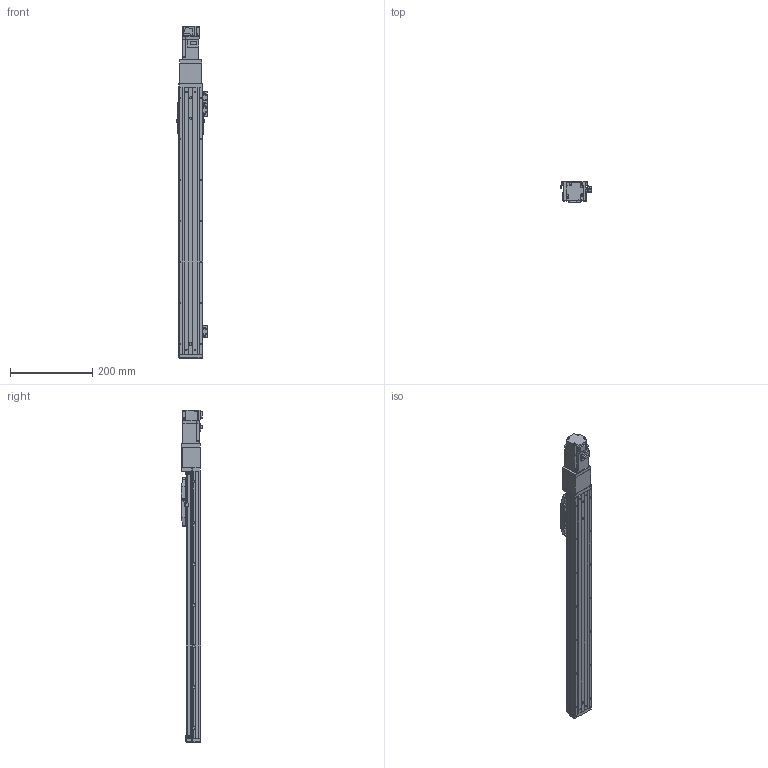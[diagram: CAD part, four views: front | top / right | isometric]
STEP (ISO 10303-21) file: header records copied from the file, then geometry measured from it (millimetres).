
FILE_DESCRIPTION (( 'STEP AP203' ), '1' );
FILE_NAME ('CTHA50-500-BC-M10-C4L.step', '2022-03-19T05:56:50', ( '微软用户' ), ( '微软中国' ), 'SwSTEP 2.0', 'SolidWorks 2020', '' );
FILE_SCHEMA (( 'CONFIG_CONTROL_DESIGN' ));
Length unit declared in the file: millimetre
Products named in the file (20): CTHA60-021; CTHA50-030; EE_SX911P_R; CTHA50-027; CTHA50-031; GBT77-2000 M3×3; CTHA50-006-2_CTHA60-006-2; CTHA50-500-BC-M10-C4L; GBT 70.1-M3℅6; CTHA50-013; KTHA50-001_650; CTHA60-017; HG-KR13（三菱）; KTHA50-004; GBT 70.1-M4×12; GBT 70.3-M3℅6; KTHA50-005; CTHA60-016; CTHA50-002; GB¨uT 70.2-M3¡Á6_M3¡Á6
Assembly tree (59 placements, depth 2):
  CTHA50-500-BC-M10-C4L
    KTHA50-001_650
    KTHA50-004
    KTHA50-005
    GB¨uT 70.2-M3¡Á6_M3¡Á6  x10
    EE_SX911P_R  x3
    GBT77-2000 M3×3  x6
    GBT 70.1-M3℅6  x6
    CTHA60-017  x3
    GBT 70.1-M4×12  x10
    CTHA60-016  x2
    CTHA60-021  x2
    CTHA50-027
    CTHA50-006-2_CTHA60-006-2
    CTHA50-013
    HG-KR13（三菱）
    GBT 70.3-M3℅6  x6
    CTHA50-002
    CTHA50-030  x2
    CTHA50-031
Bounding box: 74.12 x 53.3 x 808.6 mm (x, y, z)
Volume: 1307449.1 mm3; surface area: 351046.7 mm2
Topology: 61 solids, 61 shells, 2436 faces, 5794 edges, 3546 vertices
Faces by surface type: plane 1402, cylinder 550, cone 364, torus 96, sphere 24
Entity records: 39990 total; most frequent: CARTESIAN_POINT 6451, DIRECTION 6410, ORIENTED_EDGE 6156, EDGE_CURVE 3078, VECTOR 2246, LINE 2246, AXIS2_PLACEMENT_3D 2082, VERTEX_POINT 1939
